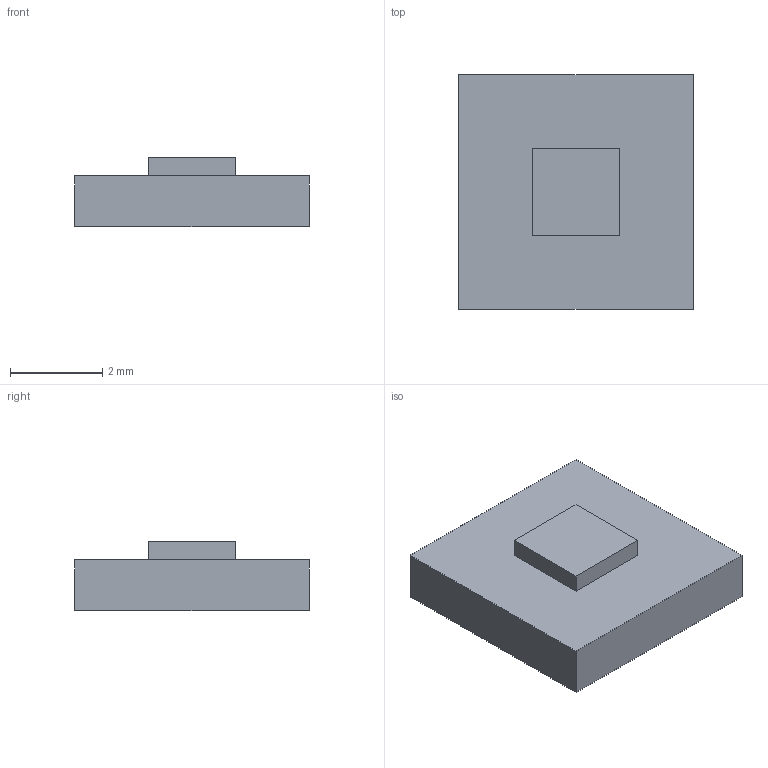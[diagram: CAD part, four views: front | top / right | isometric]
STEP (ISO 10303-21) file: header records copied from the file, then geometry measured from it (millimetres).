
FILE_DESCRIPTION(('tredder 3D model'),'2;1');
FILE_NAME('sw_tact_xkb_ts1187a.step','2026-01-01T00:00:00',(''),(''),'tredder step_writer','tredder','');
FILE_SCHEMA(('AUTOMOTIVE_DESIGN { 1 0 10303 214 1 1 1 1 }'));
Length unit declared in the file: millimetre
Products named in the file (1): sw_tact_xkb_ts1187a
Bounding box: 5.1 x 5.1 x 1.5 mm (x, y, z)
Volume: 30.1 mm3; surface area: 84.7 mm2
Topology: 2 solids, 2 shells, 12 faces, 24 edges, 16 vertices
Faces by surface type: plane 12
Entity records: 332 total; most frequent: CARTESIAN_POINT 53, DIRECTION 50, ORIENTED_EDGE 48, VECTOR 24, LINE 24, EDGE_CURVE 24, VERTEX_POINT 16, AXIS2_PLACEMENT_3D 13
